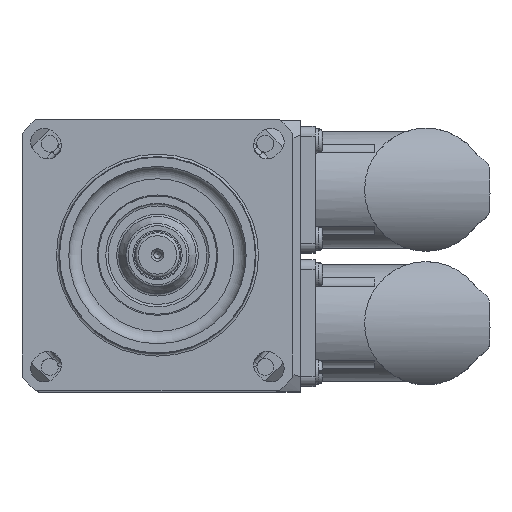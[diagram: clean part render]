
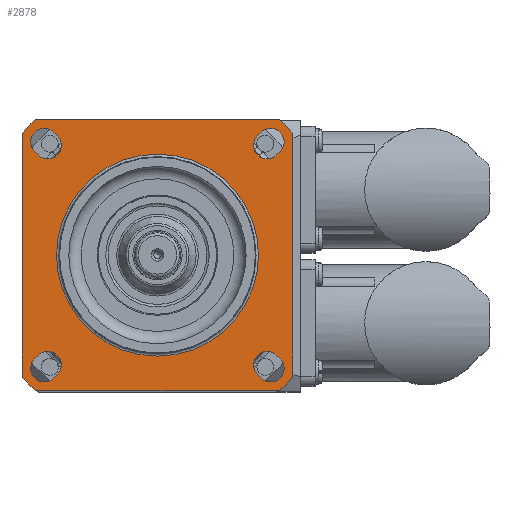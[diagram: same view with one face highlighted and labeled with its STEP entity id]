
A CAD part, top view. The second image highlights one B-rep face of the part: STEP entity #2878.
In plain terms, the highlighted planar face has unit normal (0, 0, 1) as drawn and (0, -1, 0) by its records, which use the part's own axes.
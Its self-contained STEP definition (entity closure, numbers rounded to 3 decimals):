
#1013=LINE('',#21390,#1550);
#1017=LINE('',#21399,#1554);
#1021=LINE('',#21408,#1558);
#1025=LINE('',#21417,#1562);
#1054=LINE('',#21709,#1591);
#1055=LINE('',#21714,#1592);
#1056=LINE('',#21717,#1593);
#1057=LINE('',#21722,#1594);
#1058=LINE('',#21725,#1595);
#1059=LINE('',#21730,#1596);
#1060=LINE('',#21733,#1597);
#1061=LINE('',#21738,#1598);
#1550=VECTOR('',#16263,1.);
#1554=VECTOR('',#16269,1.);
#1558=VECTOR('',#16275,1.);
#1562=VECTOR('',#16281,1.);
#1591=VECTOR('',#16322,1.);
#1592=VECTOR('',#16325,1.);
#1593=VECTOR('',#16328,1.);
#1594=VECTOR('',#16331,1.);
#1595=VECTOR('',#16334,1.);
#1596=VECTOR('',#16337,1.);
#1597=VECTOR('',#16340,1.);
#1598=VECTOR('',#16343,1.);
#2878=ADVANCED_FACE('',(#4127,#4128,#4129,#4130,#4131,#3736),#3272,.T.);
#3272=PLANE('',#13581);
#3736=FACE_OUTER_BOUND('',#5041,.T.);
#4127=FACE_BOUND('',#5036,.T.);
#4128=FACE_BOUND('',#5037,.T.);
#4129=FACE_BOUND('',#5038,.T.);
#4130=FACE_BOUND('',#5039,.T.);
#4131=FACE_BOUND('',#5040,.T.);
#5036=EDGE_LOOP('',(#7739));
#5037=EDGE_LOOP('',(#7740,#7741,#7742,#7743));
#5038=EDGE_LOOP('',(#7744,#7745,#7746,#7747));
#5039=EDGE_LOOP('',(#7748,#7749,#7750,#7751));
#5040=EDGE_LOOP('',(#7752,#7753,#7754,#7755));
#5041=EDGE_LOOP('',(#7756,#7757,#7758,#7759,#7760,#7761,#7762,#7763));
#7739=ORIENTED_EDGE('',*,*,#11350,.T.);
#7740=ORIENTED_EDGE('',*,*,#11351,.T.);
#7741=ORIENTED_EDGE('',*,*,#11352,.F.);
#7742=ORIENTED_EDGE('',*,*,#11353,.F.);
#7743=ORIENTED_EDGE('',*,*,#11354,.F.);
#7744=ORIENTED_EDGE('',*,*,#11355,.T.);
#7745=ORIENTED_EDGE('',*,*,#11356,.F.);
#7746=ORIENTED_EDGE('',*,*,#11357,.F.);
#7747=ORIENTED_EDGE('',*,*,#11358,.F.);
#7748=ORIENTED_EDGE('',*,*,#11359,.T.);
#7749=ORIENTED_EDGE('',*,*,#11360,.F.);
#7750=ORIENTED_EDGE('',*,*,#11361,.F.);
#7751=ORIENTED_EDGE('',*,*,#11362,.F.);
#7752=ORIENTED_EDGE('',*,*,#11363,.T.);
#7753=ORIENTED_EDGE('',*,*,#11364,.F.);
#7754=ORIENTED_EDGE('',*,*,#11365,.F.);
#7755=ORIENTED_EDGE('',*,*,#11366,.F.);
#7756=ORIENTED_EDGE('',*,*,#11367,.T.);
#7757=ORIENTED_EDGE('',*,*,#11293,.T.);
#7758=ORIENTED_EDGE('',*,*,#11368,.T.);
#7759=ORIENTED_EDGE('',*,*,#11285,.T.);
#7760=ORIENTED_EDGE('',*,*,#11369,.T.);
#7761=ORIENTED_EDGE('',*,*,#11281,.T.);
#7762=ORIENTED_EDGE('',*,*,#11370,.T.);
#7763=ORIENTED_EDGE('',*,*,#11289,.F.);
#9734=VERTEX_POINT('',#21385);
#9736=VERTEX_POINT('',#21389);
#9738=VERTEX_POINT('',#21394);
#9740=VERTEX_POINT('',#21398);
#9742=VERTEX_POINT('',#21403);
#9744=VERTEX_POINT('',#21407);
#9746=VERTEX_POINT('',#21412);
#9748=VERTEX_POINT('',#21416);
#9805=VERTEX_POINT('',#21708);
#9806=VERTEX_POINT('',#21710);
#9807=VERTEX_POINT('',#21711);
#9808=VERTEX_POINT('',#21713);
#9809=VERTEX_POINT('',#21715);
#9810=VERTEX_POINT('',#21718);
#9811=VERTEX_POINT('',#21719);
#9812=VERTEX_POINT('',#21721);
#9813=VERTEX_POINT('',#21723);
#9814=VERTEX_POINT('',#21726);
#9815=VERTEX_POINT('',#21727);
#9816=VERTEX_POINT('',#21729);
#9817=VERTEX_POINT('',#21731);
#9818=VERTEX_POINT('',#21734);
#9819=VERTEX_POINT('',#21735);
#9820=VERTEX_POINT('',#21737);
#9821=VERTEX_POINT('',#21739);
#11281=EDGE_CURVE('',#9734,#9736,#1013,.T.);
#11285=EDGE_CURVE('',#9738,#9740,#1017,.T.);
#11289=EDGE_CURVE('',#9744,#9742,#1021,.T.);
#11293=EDGE_CURVE('',#9746,#9748,#1025,.T.);
#11350=EDGE_CURVE('',#9805,#9805,#12360,.T.);
#11351=EDGE_CURVE('',#9806,#9807,#1054,.T.);
#11352=EDGE_CURVE('',#9808,#9807,#12361,.T.);
#11353=EDGE_CURVE('',#9809,#9808,#1055,.T.);
#11354=EDGE_CURVE('',#9806,#9809,#12362,.T.);
#11355=EDGE_CURVE('',#9810,#9811,#1056,.T.);
#11356=EDGE_CURVE('',#9812,#9811,#12363,.T.);
#11357=EDGE_CURVE('',#9813,#9812,#1057,.T.);
#11358=EDGE_CURVE('',#9810,#9813,#12364,.T.);
#11359=EDGE_CURVE('',#9814,#9815,#1058,.T.);
#11360=EDGE_CURVE('',#9816,#9815,#12365,.T.);
#11361=EDGE_CURVE('',#9817,#9816,#1059,.T.);
#11362=EDGE_CURVE('',#9814,#9817,#12366,.T.);
#11363=EDGE_CURVE('',#9818,#9819,#1060,.T.);
#11364=EDGE_CURVE('',#9820,#9819,#12367,.T.);
#11365=EDGE_CURVE('',#9821,#9820,#1061,.T.);
#11366=EDGE_CURVE('',#9818,#9821,#12368,.T.);
#11367=EDGE_CURVE('',#9744,#9746,#12369,.T.);
#11368=EDGE_CURVE('',#9748,#9738,#12370,.T.);
#11369=EDGE_CURVE('',#9740,#9734,#12371,.T.);
#11370=EDGE_CURVE('',#9736,#9742,#12372,.T.);
#12360=CIRCLE('',#13568,20.5);
#12361=CIRCLE('',#13569,2.75);
#12362=CIRCLE('',#13570,2.75);
#12363=CIRCLE('',#13571,2.75);
#12364=CIRCLE('',#13572,2.75);
#12365=CIRCLE('',#13573,2.75);
#12366=CIRCLE('',#13574,2.75);
#12367=CIRCLE('',#13575,2.75);
#12368=CIRCLE('',#13576,2.75);
#12369=CIRCLE('',#13577,37.);
#12370=CIRCLE('',#13578,37.);
#12371=CIRCLE('',#13579,37.);
#12372=CIRCLE('',#13580,37.);
#13568=AXIS2_PLACEMENT_3D('',#21707,#16320,#16321);
#13569=AXIS2_PLACEMENT_3D('',#21712,#16323,#16324);
#13570=AXIS2_PLACEMENT_3D('',#21716,#16326,#16327);
#13571=AXIS2_PLACEMENT_3D('',#21720,#16329,#16330);
#13572=AXIS2_PLACEMENT_3D('',#21724,#16332,#16333);
#13573=AXIS2_PLACEMENT_3D('',#21728,#16335,#16336);
#13574=AXIS2_PLACEMENT_3D('',#21732,#16338,#16339);
#13575=AXIS2_PLACEMENT_3D('',#21736,#16341,#16342);
#13576=AXIS2_PLACEMENT_3D('',#21740,#16344,#16345);
#13577=AXIS2_PLACEMENT_3D('',#21741,#16346,#16347);
#13578=AXIS2_PLACEMENT_3D('',#21742,#16348,#16349);
#13579=AXIS2_PLACEMENT_3D('',#21743,#16350,#16351);
#13580=AXIS2_PLACEMENT_3D('',#21744,#16352,#16353);
#13581=AXIS2_PLACEMENT_3D('',#21745,#16354,#16355);
#16263=DIRECTION('',(-1.,0.,0.));
#16269=DIRECTION('',(0.,0.,1.));
#16275=DIRECTION('',(0.,0.,1.));
#16281=DIRECTION('',(1.,0.,0.));
#16320=DIRECTION('',(0.,1.,0.));
#16321=DIRECTION('',(0.,0.,-1.));
#16322=DIRECTION('',(0.707,0.,0.707));
#16323=DIRECTION('',(0.,-1.,0.));
#16324=DIRECTION('',(1.,0.,0.));
#16325=DIRECTION('',(0.707,0.,0.707));
#16326=DIRECTION('',(0.,-1.,0.));
#16327=DIRECTION('',(1.,0.,0.));
#16328=DIRECTION('',(-0.707,0.,0.707));
#16329=DIRECTION('',(0.,-1.,0.));
#16330=DIRECTION('',(0.,0.,1.));
#16331=DIRECTION('',(-0.707,0.,0.707));
#16332=DIRECTION('',(0.,-1.,0.));
#16333=DIRECTION('',(0.,0.,1.));
#16334=DIRECTION('',(-0.707,0.,-0.707));
#16335=DIRECTION('',(0.,-1.,0.));
#16336=DIRECTION('',(-1.,0.,0.));
#16337=DIRECTION('',(-0.707,0.,-0.707));
#16338=DIRECTION('',(0.,-1.,0.));
#16339=DIRECTION('',(-1.,0.,0.));
#16340=DIRECTION('',(0.707,0.,-0.707));
#16341=DIRECTION('',(0.,-1.,0.));
#16342=DIRECTION('',(0.,0.,-1.));
#16343=DIRECTION('',(0.707,0.,-0.707));
#16344=DIRECTION('',(0.,-1.,0.));
#16345=DIRECTION('',(0.,0.,-1.));
#16346=DIRECTION('',(0.,-1.,0.));
#16347=DIRECTION('',(-1.,0.,0.));
#16348=DIRECTION('',(0.,-1.,0.));
#16349=DIRECTION('',(-1.,0.,0.));
#16350=DIRECTION('',(0.,-1.,0.));
#16351=DIRECTION('',(-1.,0.,0.));
#16352=DIRECTION('',(0.,-1.,0.));
#16353=DIRECTION('',(-1.,0.,0.));
#16354=DIRECTION('',(0.,-1.,0.));
#16355=DIRECTION('',(0.,0.,-1.));
#21385=CARTESIAN_POINT('',(17.254,-0.5,20.));
#21389=CARTESIAN_POINT('',(-32.254,-0.5,20.));
#21390=CARTESIAN_POINT('',(-7.5,-0.5,20.));
#21394=CARTESIAN_POINT('',(20.,-0.5,-32.254));
#21398=CARTESIAN_POINT('',(20.,-0.5,17.254));
#21399=CARTESIAN_POINT('',(20.,-0.5,-35.));
#21403=CARTESIAN_POINT('',(-35.,-0.5,17.254));
#21407=CARTESIAN_POINT('',(-35.,-0.5,-32.254));
#21408=CARTESIAN_POINT('',(-35.,-0.5,-35.));
#21412=CARTESIAN_POINT('',(-32.254,-0.5,-35.));
#21416=CARTESIAN_POINT('',(17.254,-0.5,-35.));
#21417=CARTESIAN_POINT('',(-7.5,-0.5,-35.));
#21707=CARTESIAN_POINT('',(-7.5,-0.5,-7.5));
#21708=CARTESIAN_POINT('',(-7.5,-0.5,-28.));
#21709=CARTESIAN_POINT('',(-32.072,-0.5,-28.183));
#21710=CARTESIAN_POINT('',(-32.426,-0.5,-28.536));
#21711=CARTESIAN_POINT('',(-31.718,-0.5,-27.829));
#21712=CARTESIAN_POINT('',(-29.774,-0.5,-29.774));
#21713=CARTESIAN_POINT('',(-27.829,-0.5,-31.718));
#21714=CARTESIAN_POINT('',(-28.183,-0.5,-32.072));
#21715=CARTESIAN_POINT('',(-28.536,-0.5,-32.426));
#21716=CARTESIAN_POINT('',(-30.481,-0.5,-30.481));
#21717=CARTESIAN_POINT('',(13.183,-0.5,-32.072));
#21718=CARTESIAN_POINT('',(13.536,-0.5,-32.426));
#21719=CARTESIAN_POINT('',(12.829,-0.5,-31.718));
#21720=CARTESIAN_POINT('',(14.774,-0.5,-29.774));
#21721=CARTESIAN_POINT('',(16.718,-0.5,-27.829));
#21722=CARTESIAN_POINT('',(17.072,-0.5,-28.183));
#21723=CARTESIAN_POINT('',(17.426,-0.5,-28.536));
#21724=CARTESIAN_POINT('',(15.481,-0.5,-30.481));
#21725=CARTESIAN_POINT('',(17.072,-0.5,13.183));
#21726=CARTESIAN_POINT('',(17.426,-0.5,13.536));
#21727=CARTESIAN_POINT('',(16.718,-0.5,12.829));
#21728=CARTESIAN_POINT('',(14.774,-0.5,14.774));
#21729=CARTESIAN_POINT('',(12.829,-0.5,16.718));
#21730=CARTESIAN_POINT('',(13.183,-0.5,17.072));
#21731=CARTESIAN_POINT('',(13.536,-0.5,17.426));
#21732=CARTESIAN_POINT('',(15.481,-0.5,15.481));
#21733=CARTESIAN_POINT('',(-28.183,-0.5,17.072));
#21734=CARTESIAN_POINT('',(-28.536,-0.5,17.426));
#21735=CARTESIAN_POINT('',(-27.829,-0.5,16.718));
#21736=CARTESIAN_POINT('',(-29.774,-0.5,14.774));
#21737=CARTESIAN_POINT('',(-31.718,-0.5,12.829));
#21738=CARTESIAN_POINT('',(-32.072,-0.5,13.183));
#21739=CARTESIAN_POINT('',(-32.426,-0.5,13.536));
#21740=CARTESIAN_POINT('',(-30.481,-0.5,15.481));
#21741=CARTESIAN_POINT('',(-7.5,-0.5,-7.5));
#21742=CARTESIAN_POINT('',(-7.5,-0.5,-7.5));
#21743=CARTESIAN_POINT('',(-7.5,-0.5,-7.5));
#21744=CARTESIAN_POINT('',(-7.5,-0.5,-7.5));
#21745=CARTESIAN_POINT('',(-7.5,-0.5,-35.));
